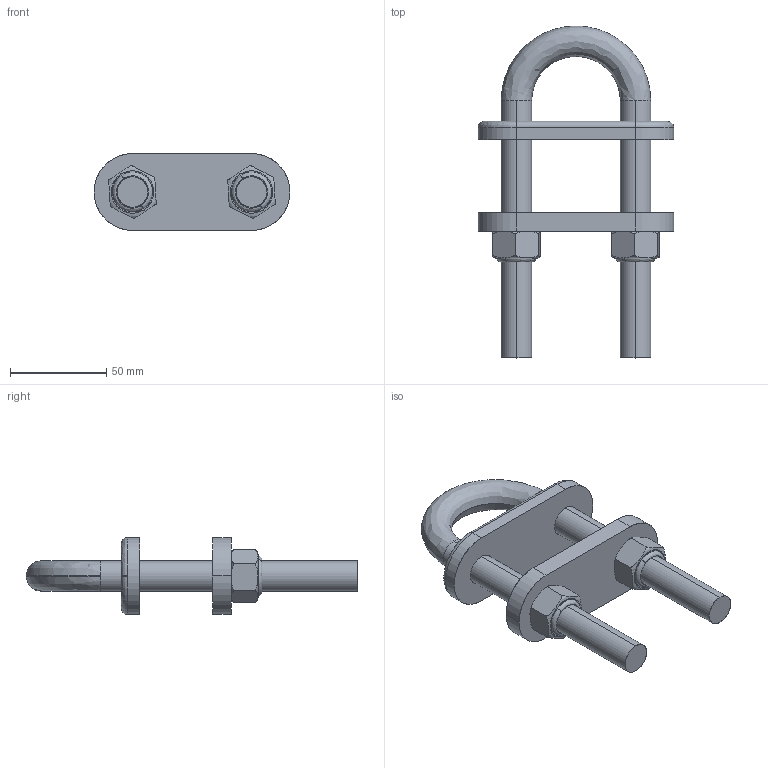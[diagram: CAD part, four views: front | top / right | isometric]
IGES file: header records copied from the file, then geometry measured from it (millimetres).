
Start section: SolidWorks IGES file using analytic representation for surfaces
Global section: file name: \\ntserver\ENGINEER\catalog eng files\NEW\C9057.IGS; native system: SolidWorks 2011; preprocessor: SolidWorks 2011; author: mallory.siguenza; date: 130426.095018; units: centimetre
Bounding box: 101.98 x 172.83 x 40 mm (x, y, z)
Surface area: 39568 mm2 (no closed solid volume)
Topology: 0 solids, 0 shells, 55 faces, 1526 edges, 1526 vertices
Faces by surface type: bspline 43, revolution 12
